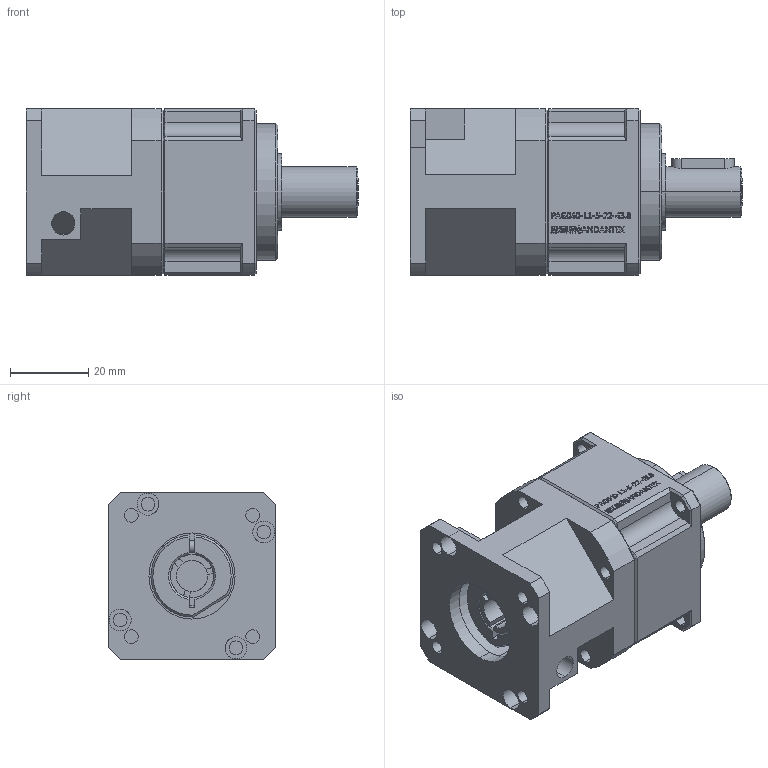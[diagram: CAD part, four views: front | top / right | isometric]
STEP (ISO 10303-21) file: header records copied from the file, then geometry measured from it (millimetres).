
FILE_DESCRIPTION (( 'STEP AP203' ), '1' );
FILE_NAME ('PAG040-L1-5-22-43.8.STEP', '2023-07-10T08:45:05', ( 'Windows User' ), ( 'P R C' ), 'SwSTEP 2.0', 'SolidWorks 2016', '' );
FILE_SCHEMA (( 'CONFIG_CONTROL_DESIGN' ));
Length unit declared in the file: millimetre
Products named in the file (6): 5X5X16; PAG040-L1-5-22-43.8; PAG040-CQ01; PD42-WZZ-8-22-孜3.5-43.8-LR28_1123; PAG040-SJH(锁紧环孔11)-配22止口反锁尾座; GB／T70．1-2000内六角圆柱头螺钉M3×12
Assembly tree (5 placements, depth 2):
  PAG040-L1-5-22-43.8
    PAG040-CQ01
    PD42-WZZ-8-22-孜3.5-43.8-LR28_1123
    PAG040-SJH(锁紧环孔11)-配22止口反锁尾座
    GB／T70．1-2000内六角圆柱头螺钉M3×12
    5X5X16
Bounding box: 84.8 x 42.6 x 42.6 mm (x, y, z)
Volume: 83688.2 mm3; surface area: 28538.5 mm2
Topology: 5 solids, 5 shells, 864 faces, 2271 edges, 1489 vertices
Faces by surface type: plane 543, bspline 162, cylinder 113, cone 46
Entity records: 33815 total; most frequent: CARTESIAN_POINT 12832, ORIENTED_EDGE 4522, DIRECTION 3567, EDGE_CURVE 2261, LINE 1587, VECTOR 1587, VERTEX_POINT 1485, AXIS2_PLACEMENT_3D 990
